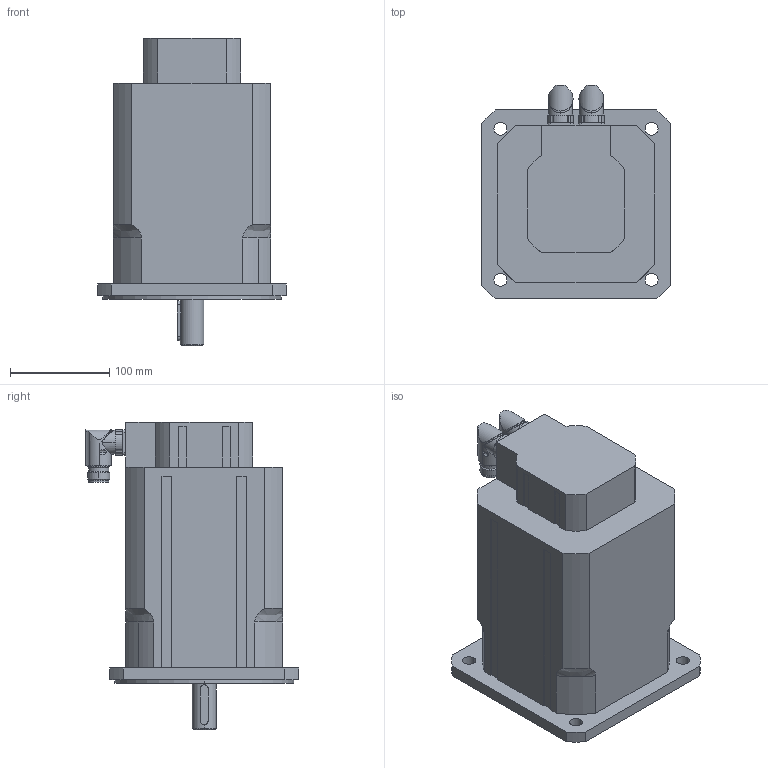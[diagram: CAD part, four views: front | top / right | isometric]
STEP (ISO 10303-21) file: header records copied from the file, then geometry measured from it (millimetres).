
FILE_DESCRIPTION(('STEP AP203'),'2;1');
FILE_NAME('MT6-2200.stp','2006-08-28T20:24:51',(''),(''),'2005.2.102','THINKDESIGN','');
FILE_SCHEMA(('CONFIG_CONTROL_DESIGN'));
Length unit declared in the file: millimetre
Bounding box: 190 x 214.5 x 309 mm (x, y, z)
Volume: 5886338.5 mm3; surface area: 249587.6 mm2
Topology: 3 solids, 3 shells, 258 faces, 685 edges, 443 vertices
Faces by surface type: cylinder 112, plane 108, bspline 38
Full cylindrical faces by diameter (mm): 20 x2
Entity records: 9380 total; most frequent: CARTESIAN_POINT 2860, ORIENTED_EDGE 1366, DIRECTION 1343, EDGE_CURVE 683, AXIS2_PLACEMENT_3D 500, VERTEX_POINT 443, VECTOR 343, LINE 343
